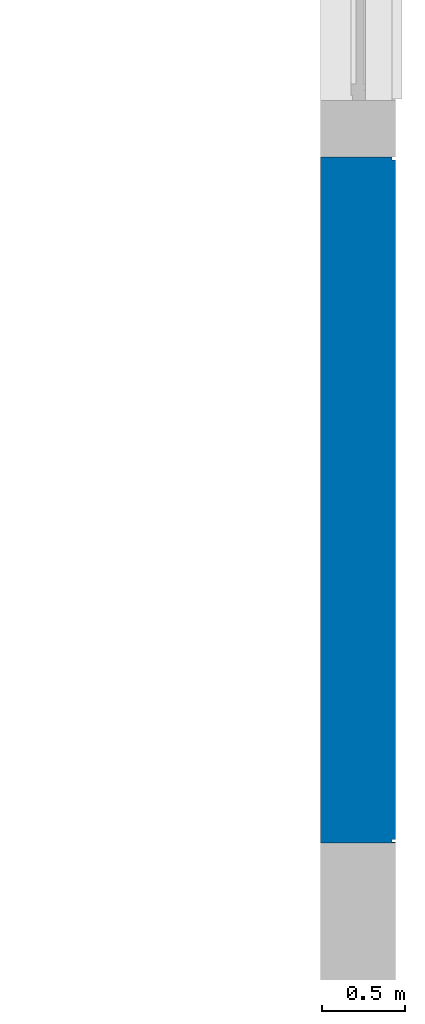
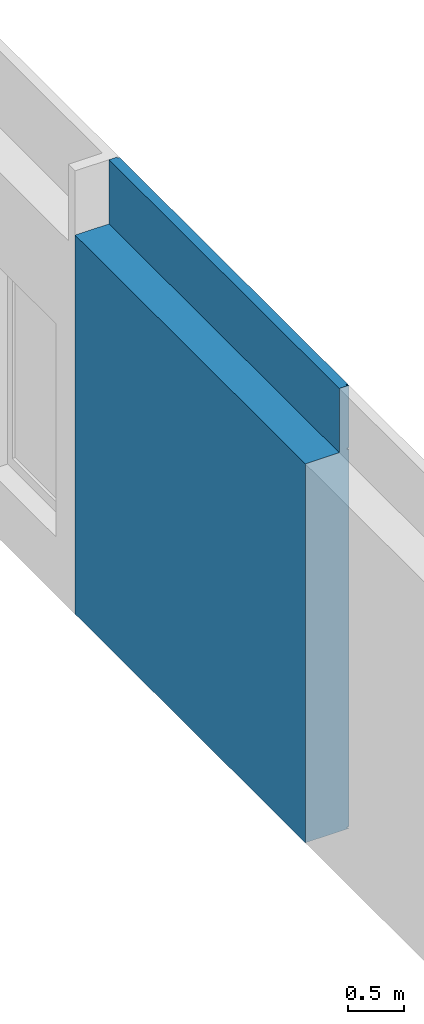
# One storey, part 20 of 33: 1 wall, 4 openings.
"""IFC2X3 building model written with IfcOpenShell, lengths in millimetres."""

from ifc_helpers import new_model, entity, si_unit, converted_unit, derived_unit, direction, frame, frame_2d, origin, origin_2d_with_axis, place, context, subcontext, project, spatial, polyline, rectangle, outline, extrude, clip, bounded_halfspace, faceted_brep, material, layer, layer_set, layer_usage, type_object, element, save


model = new_model("IFC2X3")

# Units and contexts
model_context = context("Model", 3, precision=0.01, world=origin(), true_north=direction((6.12303176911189e-17, 1.0)))
body_context = subcontext(model_context, "Body", "Model", "MODEL_VIEW")
ifc_project = project(units=[si_unit("LENGTHUNIT", "METRE", prefix="MILLI"), si_unit("AREAUNIT", "SQUARE_METRE"), si_unit("VOLUMEUNIT", "CUBIC_METRE"), converted_unit("PLANEANGLEUNIT", "DEGREE", entity("IfcRatioMeasure", 0.0174532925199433), si_unit("PLANEANGLEUNIT", "RADIAN"), dimensions=[0, 0, 0, 0, 0, 0, 0]), si_unit("MASSUNIT", "GRAM", prefix="KILO"), derived_unit("MASSDENSITYUNIT", [(si_unit("MASSUNIT", "GRAM", prefix="KILO"), 1), (si_unit("LENGTHUNIT", "METRE"), -3)]), si_unit("TIMEUNIT", "SECOND"), si_unit("FREQUENCYUNIT", "HERTZ"), si_unit("THERMODYNAMICTEMPERATUREUNIT", "DEGREE_CELSIUS"), derived_unit("THERMALTRANSMITTANCEUNIT", [(si_unit("MASSUNIT", "GRAM", prefix="KILO"), 1), (si_unit("THERMODYNAMICTEMPERATUREUNIT", "KELVIN"), -1), (si_unit("TIMEUNIT", "SECOND"), -3)]), derived_unit("VOLUMETRICFLOWRATEUNIT", [(si_unit("LENGTHUNIT", "METRE"), 3), (si_unit("TIMEUNIT", "SECOND"), -1)]), si_unit("ELECTRICCURRENTUNIT", "AMPERE"), si_unit("ELECTRICVOLTAGEUNIT", "VOLT"), si_unit("POWERUNIT", "WATT"), si_unit("FORCEUNIT", "NEWTON", prefix="KILO"), si_unit("ILLUMINANCEUNIT", "LUX"), si_unit("LUMINOUSFLUXUNIT", "LUMEN"), si_unit("LUMINOUSINTENSITYUNIT", "CANDELA"), derived_unit("USERDEFINED", [(si_unit("MASSUNIT", "GRAM", prefix="KILO"), -1), (si_unit("LENGTHUNIT", "METRE"), -2), (si_unit("TIMEUNIT", "SECOND"), 3), (si_unit("LUMINOUSFLUXUNIT", "LUMEN"), 1)]), derived_unit("LINEARVELOCITYUNIT", [(si_unit("LENGTHUNIT", "METRE"), 1), (si_unit("TIMEUNIT", "SECOND"), -1)]), si_unit("PRESSUREUNIT", "PASCAL"), derived_unit("USERDEFINED", [(si_unit("LENGTHUNIT", "METRE"), -2), (si_unit("MASSUNIT", "GRAM", prefix="KILO"), 1), (si_unit("TIMEUNIT", "SECOND"), -2)])], contexts=[model_context])

# Site, building, storey
site_placement = place(None, origin())
site = spatial("IfcSite", under=ifc_project, at=site_placement, Name="Default", CompositionType="ELEMENT")
building_placement = place(site_placement, origin())
building = spatial("IfcBuilding", under=site, at=building_placement, CompositionType="ELEMENT")
storey_placement = place(building_placement, frame((0.0, 0.0, 4000.0)))
storey = spatial("IfcBuildingStorey", under=building, at=storey_placement, Name="2. KORRUS", CompositionType="ELEMENT", Elevation=4000.0)

# Wall, openings
ifc_material_1 = material(Name="RECKLI 1 173 THUR by Polantis 2016-toon2")
ifc_layer_1 = layer(ifc_material_1, 100.0)
ifc_material_2 = material(Name="Soojusisolatsioon EPS")
ifc_layer_2 = layer(ifc_material_2, 200.0)
ifc_material_3 = material(Name="r/b")
ifc_layer_3 = layer(ifc_material_3, 150.0)
ifc_layer_set = layer_set([ifc_layer_1, ifc_layer_2, ifc_layer_3], Name="Basic Wall:VS-1_toon-c")
ifc_layer_usage = layer_usage(ifc_layer_set, "AXIS2", "NEGATIVE", 225.0)
wall_type = type_object("IfcWallType", Name="Basic Wall:VS-1_toon-c", PredefinedType="STANDARD", material=ifc_layer_set)
wall_placement = place(storey_placement, frame((39725.0, 12880.0, -135.0), z_axis=(0.0, 0.0, 1.0), x_axis=(0.0, -1.0, 0.0)))
wall = element("IfcWallStandardCase", 1, at=wall_placement, inside=storey, type_object=wall_type, material=ifc_layer_usage, Name="Basic Wall:VS-1_toon-c", ObjectType="Basic Wall:VS-1_toon-c", context=body_context, shape_type="Clipping", body=[
    clip(extrude(outline(polyline([(4236.66999997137, -225.0), (4236.66999997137, 225.0), (4232.66999997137, 225.0), (4232.66999997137, 205.0), (4216.66999997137, 205.0), (4216.66999997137, 225.0), (136.0, 225.0), (136.0, 205.0), (120.0, 205.0), (120.0, -225.0), (4236.66999997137, -225.0)])), origin(), (0.0, 0.0, 1.0), 4835.00000000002), bounded_halfspace(frame((0.0, -225.0, 4135.0), z_axis=(0.0, 0.0, 1.0), x_axis=(0.0, 1.0, 0.0)), False, frame((0.0, -225.0, 4135.0)), polyline([(0.0, 0.0), (4236.66999997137, 0.0), (4236.66999997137, 350.0), (0.0, 350.0), (0.0, 0.0)]))),
])
opening_1_placement = place(wall_placement, origin())
element("IfcOpeningElement", 2, at=opening_1_placement, cuts=wall, Name="Basic Wall:VS-1_toon-c", ObjectType="Recess", context=body_context, shape_type="SweptSolid", body=[
    extrude(rectangle(XDim=4265.0, YDim=15.9999999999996, at=frame_2d((0.0, 5.40900657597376e-13), x_axis=(1.0, 0.0))), frame((4224.66999997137, 205.0, -2132.5), z_axis=(0.0, 1.0, 0.0), x_axis=(0.0, 0.0, 1.0)), (0.0, 0.0, 1.0), 20.0000000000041),
    extrude(rectangle(XDim=4835.0, YDim=15.9999999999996, at=frame_2d((0.0, -5.40900657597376e-13), x_axis=(1.0, 0.0))), frame((4224.66999997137, 205.0, 2417.5), z_axis=(0.0, 1.0, 0.0), x_axis=(0.0, 0.0, 1.0)), (0.0, 0.0, 1.0), 20.0000000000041),
])
opening_2_placement = place(wall_placement, origin())
element("IfcOpeningElement", 3, at=opening_2_placement, cuts=wall, Name="Basic Wall:VS-1_toon-c", ObjectType="Recess", context=body_context, shape_type="SweptSolid", body=[
    extrude(rectangle(XDim=4265.0, YDim=16.0000000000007, at=origin_2d_with_axis()), frame((128.0, 205.0, -2132.50000000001), z_axis=(0.0, 1.0, 0.0), x_axis=(0.0, 0.0, 1.0)), (0.0, 0.0, 1.0), 20.0000000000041),
    extrude(rectangle(XDim=4835.0, YDim=16.0000000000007, at=frame_2d((8.18545231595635e-12, -1.08268949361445e-12), x_axis=(1.0, 0.0))), frame((128.0, 205.0, 2417.5), z_axis=(0.0, 1.0, 0.0), x_axis=(0.0, 0.0, 1.0)), (0.0, 0.0, 1.0), 20.0000000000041),
])
opening_3_placement = place(wall_placement, frame((13330.0, -40175.0, 4.0)))
element("IfcOpeningElement", 4, at=opening_3_placement, cuts=wall, Name="Basic Wall:VS-1_toon-c", ObjectType="Opening", context=body_context, shape_type="Brep", body=[
    faceted_brep([(-20.0, 11850.0, 16.0), (0.0, 11850.0, 16.0), (0.0, 11850.0, 0.0), (-20.0, 11850.0, 0.0), (-20.0, 4260.0, 16.0), (-20.0, 4260.0, 0.0), (0.0, 4260.0, 0.0), (0.0, 4260.0, 16.0)], [[[0, 1, 2, 3]], [[4, 5, 6, 7]], [[1, 0, 4, 7]], [[2, 1, 7, 6]], [[3, 2, 6, 5]], [[0, 3, 5, 4]]]),
    faceted_brep([(-28480.0, 20.0, 16.0), (-28480.0, 20.0, 0.0), (-28500.0, 0.0, 0.0), (-28500.0, 0.0, 16.0), (-23740.0, 20.0, 16.0), (-23740.0, 0.0, 16.0), (-23740.0, 0.0, 0.0), (-23740.0, 20.0, 0.0)], [[[0, 1, 2, 3]], [[4, 5, 6, 7]], [[1, 0, 4, 7]], [[2, 1, 7, 6]], [[3, 2, 6, 5]], [[0, 3, 5, 4]]]),
    faceted_brep([(-22380.0517807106, 10080.0, 16.0), (-22400.0517807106, 10100.0, 16.0), (-22400.0517807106, 10100.0, 0.0), (-22380.0517807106, 10080.0, 0.0), (-22380.0517807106, 15330.3475962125, 16.0), (-22380.0517807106, 15330.3475962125, 0.0), (-22400.0517807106, 15330.3475962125, 0.0), (-22400.0517807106, 15330.3475962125, 16.0)], [[[0, 1, 2, 3]], [[4, 5, 6, 7]], [[1, 0, 4, 7]], [[2, 1, 7, 6]], [[3, 2, 6, 5]], [[0, 3, 5, 4]]]),
    faceted_brep([(-28480.0, 20.0, 16.0), (-28500.0, 0.0, 16.0), (-28500.0, 0.0, 0.0), (-28480.0, 20.0, 0.0), (-28480.0, 4360.0, 16.0), (-28480.0, 4360.0, 0.0), (-28500.0, 4360.0, 0.0), (-28500.0, 4360.0, 16.0)], [[[0, 1, 2, 3]], [[4, 5, 6, 7]], [[1, 0, 4, 7]], [[2, 1, 7, 6]], [[3, 2, 6, 5]], [[0, 3, 5, 4]]]),
    faceted_brep([(-20.0, 40380.0, 16.0), (0.0, 40400.0, 16.0), (0.0, 40400.0, 0.0), (-20.0, 40380.0, 0.0), (-20.0, 35250.0, 16.0), (-20.0, 35250.0, 0.0), (0.0, 35250.0, 0.0), (0.0, 35250.0, 16.0)], [[[0, 1, 2, 3]], [[4, 5, 6, 7]], [[1, 0, 4, 7]], [[2, 1, 7, 6]], [[3, 2, 6, 5]], [[0, 3, 5, 4]]]),
    faceted_brep([(-22380.0517807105, 34420.1035702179, 16.0), (-22400.0517807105, 34420.1035702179, 16.0), (-22400.0517807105, 34420.1035702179, 0.0), (-22380.0517807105, 34420.1035702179, 0.0), (-22380.0517807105, 40380.0, 16.0), (-22380.0517807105, 40380.0, 0.0), (-22400.0517807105, 40400.0, 0.0), (-22400.0517807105, 40400.0, 16.0)], [[[0, 1, 2, 3]], [[4, 5, 6, 7]], [[1, 0, 4, 7]], [[2, 1, 7, 6]], [[3, 2, 6, 5]], [[0, 3, 5, 4]]]),
    faceted_brep([(-22380.0517807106, 29113.2161487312, 16.0), (-22400.0517807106, 29113.2161487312, 16.0), (-22400.0517807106, 29113.2161487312, 0.0), (-22380.0517807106, 29113.2161487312, 0.0), (-22380.0517807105, 34420.1035702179, 16.0), (-22380.0517807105, 34420.1035702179, 0.0), (-22400.0517807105, 34420.1035702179, 0.0), (-22400.0517807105, 34420.1035702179, 16.0)], [[[0, 1, 2, 3]], [[4, 5, 6, 7]], [[1, 0, 4, 7]], [[2, 1, 7, 6]], [[3, 2, 6, 5]], [[0, 3, 5, 4]]]),
    faceted_brep([(-28480.0, 10080.0, 16.0), (-28500.0, 10100.0, 16.0), (-28500.0, 10100.0, 0.0), (-28480.0, 10080.0, 0.0), (-22380.0517807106, 10080.0, 16.0), (-22380.0517807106, 10080.0, 0.0), (-22400.0517807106, 10100.0, 0.0), (-22400.0517807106, 10100.0, 16.0)], [[[0, 1, 2, 3]], [[4, 5, 6, 7]], [[1, 0, 4, 7]], [[2, 1, 7, 6]], [[3, 2, 6, 5]], [[0, 3, 5, 4]]]),
    faceted_brep([(-20.0, 4260.0, 16.0), (0.0, 4260.0, 16.0), (0.0, 4260.0, 0.0), (-20.0, 4260.0, 0.0), (-20.0, 0.0, 16.0), (-20.0, 0.0, 0.0), (0.0, 0.0, 0.0), (0.0, 0.0, 16.0)], [[[0, 1, 2, 3]], [[4, 5, 6, 7]], [[1, 0, 4, 7]], [[2, 1, 7, 6]], [[3, 2, 6, 5]], [[0, 3, 5, 4]]]),
    faceted_brep([(-4865.0, 40380.0, 16.0), (-4865.0, 40400.0, 16.0), (-4865.0, 40400.0, 0.0), (-4865.0, 40380.0, 0.0), (-20.0, 40380.0, 16.0), (-20.0, 40380.0, 0.0), (0.0, 40400.0, 0.0), (0.0, 40400.0, 16.0)], [[[0, 1, 2, 3]], [[4, 5, 6, 7]], [[1, 0, 4, 7]], [[2, 1, 7, 6]], [[3, 2, 6, 5]], [[0, 3, 5, 4]]]),
    faceted_brep([(-9093.33000000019, 40380.0, 16.0), (-9093.33000000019, 40400.0, 16.0), (-9093.33000000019, 40400.0, 0.0), (-9093.33000000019, 40380.0, 0.0), (-4865.0, 40380.0, 16.0), (-4865.0, 40380.0, 0.0), (-4865.0, 40400.0, 0.0), (-4865.0, 40400.0, 16.0)], [[[0, 1, 2, 3]], [[4, 5, 6, 7]], [[1, 0, 4, 7]], [[2, 1, 7, 6]], [[3, 2, 6, 5]], [[0, 3, 5, 4]]]),
    faceted_brep([(-13210.0, 40380.0, 16.0), (-13210.0, 40400.0, 16.0), (-13210.0, 40400.0, 0.0), (-13210.0, 40380.0, 0.0), (-9093.33000000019, 40380.0, 16.0), (-9093.33000000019, 40380.0, 0.0), (-9093.33000000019, 40400.0, 0.0), (-9093.33000000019, 40400.0, 16.0)], [[[0, 1, 2, 3]], [[4, 5, 6, 7]], [[1, 0, 4, 7]], [[2, 1, 7, 6]], [[3, 2, 6, 5]], [[0, 3, 5, 4]]]),
    faceted_brep([(-16240.0, 40380.0, 16.0), (-16240.0, 40400.0, 16.0), (-16240.0, 40400.0, 0.0), (-16240.0, 40380.0, 0.0), (-13210.0, 40380.0, 16.0), (-13210.0, 40380.0, 0.0), (-13210.0, 40400.0, 0.0), (-13210.0, 40400.0, 16.0)], [[[0, 1, 2, 3]], [[4, 5, 6, 7]], [[1, 0, 4, 7]], [[2, 1, 7, 6]], [[3, 2, 6, 5]], [[0, 3, 5, 4]]]),
    faceted_brep([(-22380.0517807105, 40380.0, 16.0), (-22400.0517807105, 40400.0, 16.0), (-22400.0517807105, 40400.0, 0.0), (-22380.0517807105, 40380.0, 0.0), (-16240.0, 40380.0, 16.0), (-16240.0, 40380.0, 0.0), (-16240.0, 40400.0, 0.0), (-16240.0, 40400.0, 16.0)], [[[0, 1, 2, 3]], [[4, 5, 6, 7]], [[1, 0, 4, 7]], [[2, 1, 7, 6]], [[3, 2, 6, 5]], [[0, 3, 5, 4]]]),
    faceted_brep([(-22380.0517807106, 22535.0, 16.0), (-22400.0517807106, 22535.0, 16.0), (-22400.0517807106, 22535.0, 0.0), (-22380.0517807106, 22535.0, 0.0), (-22380.0517807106, 29113.2161487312, 16.0), (-22380.0517807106, 29113.2161487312, 0.0), (-22400.0517807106, 29113.2161487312, 0.0), (-22400.0517807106, 29113.2161487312, 16.0)], [[[0, 1, 2, 3]], [[4, 5, 6, 7]], [[1, 0, 4, 7]], [[2, 1, 7, 6]], [[3, 2, 6, 5]], [[0, 3, 5, 4]]]),
    faceted_brep([(-22380.0517807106, 18703.3528910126, 16.0), (-22400.0517807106, 18703.3528910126, 16.0), (-22400.0517807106, 18703.3528910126, 0.0), (-22380.0517807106, 18703.3528910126, 0.0), (-22380.0517807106, 22535.0, 16.0), (-22380.0517807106, 22535.0, 0.0), (-22400.0517807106, 22535.0, 0.0), (-22400.0517807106, 22535.0, 16.0)], [[[0, 1, 2, 3]], [[4, 5, 6, 7]], [[1, 0, 4, 7]], [[2, 1, 7, 6]], [[3, 2, 6, 5]], [[0, 3, 5, 4]]]),
    faceted_brep([(-22380.0517807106, 15330.3475962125, 16.0), (-22400.0517807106, 15330.3475962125, 16.0), (-22400.0517807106, 15330.3475962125, 0.0), (-22380.0517807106, 15330.3475962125, 0.0), (-22380.0517807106, 18703.3528910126, 16.0), (-22380.0517807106, 18703.3528910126, 0.0), (-22400.0517807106, 18703.3528910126, 0.0), (-22400.0517807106, 18703.3528910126, 16.0)], [[[0, 1, 2, 3]], [[4, 5, 6, 7]], [[1, 0, 4, 7]], [[2, 1, 7, 6]], [[3, 2, 6, 5]], [[0, 3, 5, 4]]]),
    faceted_brep([(-28480.0, 4360.0, 16.0), (-28500.0, 4360.0, 16.0), (-28500.0, 4360.0, 0.0), (-28480.0, 4360.0, 0.0), (-28480.0, 10080.0, 16.0), (-28480.0, 10080.0, 0.0), (-28500.0, 10100.0, 0.0), (-28500.0, 10100.0, 16.0)], [[[0, 1, 2, 3]], [[4, 5, 6, 7]], [[1, 0, 4, 7]], [[2, 1, 7, 6]], [[3, 2, 6, 5]], [[0, 3, 5, 4]]]),
    faceted_brep([(-23740.0, 20.0, 16.0), (-23740.0, 20.0, 0.0), (-23740.0, 0.0, 0.0), (-23740.0, 0.0, 16.0), (-16890.0006972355, 20.0, 16.0), (-16890.0006972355, 0.0, 16.0), (-16890.0006972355, 0.0, 0.0), (-16890.0006972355, 20.0, 0.0)], [[[0, 1, 2, 3]], [[4, 5, 6, 7]], [[1, 0, 4, 7]], [[2, 1, 7, 6]], [[3, 2, 6, 5]], [[0, 3, 5, 4]]]),
    faceted_brep([(-16890.0006972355, 20.0, 16.0), (-16890.0006972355, 20.0, 0.0), (-16890.0006972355, 0.0, 0.0), (-16890.0006972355, 0.0, 16.0), (-13460.0, 20.0, 16.0), (-13460.0, 0.0, 16.0), (-13460.0, 0.0, 0.0), (-13460.0, 20.0, 0.0)], [[[0, 1, 2, 3]], [[4, 5, 6, 7]], [[1, 0, 4, 7]], [[2, 1, 7, 6]], [[3, 2, 6, 5]], [[0, 3, 5, 4]]]),
])
opening_4_placement = place(wall_placement, origin())
element("IfcOpeningElement", 5, at=opening_4_placement, cuts=wall, Name="Basic Wall:VS-1_toon-c", ObjectType="Recess", context=body_context, shape_type="SweptSolid", body=[
    extrude(rectangle(XDim=15.9999999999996, YDim=20.0, at=frame_2d((-3.37507799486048e-14, 5.40900657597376e-13), x_axis=(0.0, 1.0))), frame((13320.0, -35915.0, 4147.0), z_axis=(0.0, 1.0, 0.0), x_axis=(1.0, 0.0, 0.0)), (0.0, 0.0, 1.0), 7590.0),
    extrude(rectangle(XDim=15.9999999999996, YDim=4660.0, at=frame_2d((-2.27373675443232e-12, 5.40900657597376e-13), x_axis=(0.0, 1.0))), frame((-12740.0, -40175.0, 4147.0), z_axis=(0.0, 1.0, 0.0), x_axis=(1.0, 0.0, 0.0)), (0.0, 0.0, 1.0), 20.0000000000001),
    extrude(rectangle(XDim=15.9999999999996, YDim=19.9999999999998, at=frame_2d((5.40900657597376e-13, -2.16626716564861e-12), x_axis=(1.0, 0.0))), frame((-9060.05178073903, -30075.0, 4147.0), z_axis=(0.0, 1.0, 0.0), x_axis=(0.0, 0.0, -1.0)), (0.0, 0.0, 1.0), 5230.3475962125),
    extrude(rectangle(XDim=15.9999999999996, YDim=19.9999999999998, at=frame_2d((5.40900657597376e-13, -2.16626716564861e-12), x_axis=(1.0, 0.0))), frame((-15160.0, -40175.0, 4147.0), z_axis=(0.0, 1.0, 0.0), x_axis=(0.0, 0.0, -1.0)), (0.0, 0.0, 1.0), 4360.0),
    extrude(rectangle(XDim=15.9999999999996, YDim=20.0, at=frame_2d((-3.37507799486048e-14, -5.40900657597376e-13), x_axis=(0.0, 1.0))), frame((13320.0, -4925.0, 4147.0), z_axis=(0.0, 1.0, 0.0), x_axis=(1.0, 0.0, 0.0)), (0.0, 0.0, 1.0), 5050.0),
    extrude(rectangle(XDim=15.9999999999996, YDim=19.9999999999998, at=frame_2d((5.40900657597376e-13, -2.16626716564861e-12), x_axis=(1.0, 0.0))), frame((-9060.05178073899, -5754.89642978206, 4147.0), z_axis=(0.0, 1.0, 0.0), x_axis=(0.0, 0.0, -1.0)), (0.0, 0.0, 1.0), 5979.89642978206),
    extrude(rectangle(XDim=15.9999999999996, YDim=19.9999999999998, at=frame_2d((5.40900657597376e-13, -2.16626716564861e-12), x_axis=(1.0, 0.0))), frame((-9060.051780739, -11061.7838512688, 4147.0), z_axis=(0.0, 1.0, 0.0), x_axis=(0.0, 0.0, -1.0)), (0.0, 0.0, 1.0), 5306.88742148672),
    extrude(rectangle(XDim=15.9999999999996, YDim=6099.94821928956, at=frame_2d((0.0, 0.0), x_axis=(0.0, 1.0))), frame((-12020.0258903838, -30095.0, 4147.0), z_axis=(0.0, 1.0, 0.0), x_axis=(1.0, 0.0, 0.0)), (0.0, 0.0, 1.0), 19.9999999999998),
    extrude(rectangle(XDim=15.9999999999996, YDim=20.0, at=frame_2d((-3.37507799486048e-14, 5.40900657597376e-13), x_axis=(0.0, 1.0))), frame((13320.0, -40075.0, 4147.0), z_axis=(0.0, 1.0, 0.0), x_axis=(1.0, 0.0, 0.0)), (0.0, 0.0, 1.0), 4160.00000000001),
    extrude(rectangle(XDim=15.9999999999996, YDim=4865.0, at=frame_2d((0.0, 5.40900657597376e-13), x_axis=(0.0, 1.0))), frame((10897.4999999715, 205.0, 4147.0), z_axis=(0.0, 1.0, 0.0), x_axis=(1.0, 0.0, 0.0)), (0.0, 0.0, 1.0), 20.0000000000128),
    extrude(rectangle(XDim=15.9999999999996, YDim=4228.33000000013, at=frame_2d((0.0, 0.0), x_axis=(0.0, 1.0))), frame((6350.83499997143, 205.0, 4147.0), z_axis=(0.0, 1.0, 0.0), x_axis=(1.0, 0.0, 0.0)), (0.0, 0.0, 1.0), 20.0000000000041),
    extrude(rectangle(XDim=15.9999999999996, YDim=4236.66999997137, at=frame_2d((1.13686837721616e-12, 0.0), x_axis=(0.0, 1.0))), frame((2118.33499998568, 205.0, 4147.0), z_axis=(0.0, 1.0, 0.0), x_axis=(1.0, 0.0, 0.0)), (0.0, 0.0, 1.0), 19.9999999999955),
    extrude(rectangle(XDim=15.9999999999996, YDim=2910.00000002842, at=frame_2d((2.1600499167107e-12, 5.40900657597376e-13), x_axis=(0.0, 1.0))), frame((-1455.0, 205.0, 4147.0), z_axis=(0.0, 1.0, 0.0), x_axis=(1.0, 0.0, 0.0)), (0.0, 0.0, 1.0), 20.0000000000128),
    extrude(rectangle(XDim=15.9999999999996, YDim=6060.05178071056, at=frame_2d((0.0, 0.0), x_axis=(0.0, 1.0))), frame((-5940.02589038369, 205.0, 4147.0), z_axis=(0.0, 1.0, 0.0), x_axis=(1.0, 0.0, 0.0)), (0.0, 0.0, 1.0), 19.9999999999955),
    extrude(rectangle(XDim=15.9999999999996, YDim=19.9999999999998, at=frame_2d((5.40900657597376e-13, -2.16626716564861e-12), x_axis=(1.0, 0.0))), frame((-9060.05178073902, -21471.6471089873, 4147.0), z_axis=(0.0, 1.0, 0.0), x_axis=(0.0, 0.0, -1.0)), (0.0, 0.0, 1.0), 3831.64710898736),
    extrude(rectangle(XDim=15.9999999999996, YDim=19.9999999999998, at=frame_2d((5.40900657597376e-13, -2.16626716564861e-12), x_axis=(1.0, 0.0))), frame((-9060.05178073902, -24844.6524037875, 4147.0), z_axis=(0.0, 1.0, 0.0), x_axis=(0.0, 0.0, -1.0)), (0.0, 0.0, 1.0), 3373.00529480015),
    extrude(rectangle(XDim=15.9999999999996, YDim=19.9999999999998, at=frame_2d((5.40900657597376e-13, 2.16626716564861e-12), x_axis=(1.0, 0.0))), frame((-15160.0, -35815.0, 4147.0), z_axis=(0.0, 1.0, 0.0), x_axis=(0.0, 0.0, -1.0)), (0.0, 0.0, 1.0), 5739.99999999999),
    extrude(rectangle(XDim=15.9999999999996, YDim=6849.99930276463, at=frame_2d((1.13686837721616e-12, 5.40900657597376e-13), x_axis=(0.0, 1.0))), frame((-6985.00034864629, -40175.0, 4147.0), z_axis=(0.0, 1.0, 0.0), x_axis=(1.0, 0.0, 0.0)), (0.0, 0.0, 1.0), 20.0),
    extrude(rectangle(XDim=15.9999999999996, YDim=3430.00069726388, at=frame_2d((1.02318153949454e-12, 5.40900657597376e-13), x_axis=(0.0, 1.0))), frame((-1845.00034863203, -40175.0, 4147.0), z_axis=(0.0, 1.0, 0.0), x_axis=(1.0, 0.0, 0.0)), (0.0, 0.0, 1.0), 20.0000000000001),
    extrude(rectangle(XDim=15.9999999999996, YDim=19.9999999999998, at=frame_2d((5.40900657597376e-13, -2.16626716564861e-12), x_axis=(1.0, 0.0))), frame((-9060.05178073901, -17640.0, 4147.0), z_axis=(0.0, 1.0, 0.0), x_axis=(0.0, 0.0, -1.0)), (0.0, 0.0, 1.0), 6578.21614873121),
    extrude(rectangle(XDim=15.9999999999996, YDim=20.0, at=frame_2d((-3.37507799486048e-14, 5.40900657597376e-13), x_axis=(0.0, 1.0))), frame((13320.0, -28325.0, 4147.0), z_axis=(0.0, 1.0, 0.0), x_axis=(1.0, 0.0, 0.0)), (0.0, 0.0, 1.0), 4110.00000000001),
    extrude(rectangle(XDim=15.9999999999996, YDim=20.0, at=frame_2d((-3.37507799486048e-14, 5.40900657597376e-13), x_axis=(0.0, 1.0))), frame((13320.0, -24215.0, 4147.0), z_axis=(0.0, 1.0, 0.0), x_axis=(1.0, 0.0, 0.0)), (0.0, 0.0, 1.0), 4600.0),
    extrude(rectangle(XDim=15.9999999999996, YDim=20.0, at=frame_2d((3.37507799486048e-14, 5.40900657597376e-13), x_axis=(0.0, 1.0))), frame((13320.0, -19615.0, 4147.0), z_axis=(0.0, 1.0, 0.0), x_axis=(1.0, 0.0, 0.0)), (0.0, 0.0, 1.0), 4600.0),
    extrude(rectangle(XDim=15.9999999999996, YDim=20.0, at=frame_2d((3.37507799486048e-14, 5.40900657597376e-13), x_axis=(0.0, 1.0))), frame((13320.0, -15015.0, 4147.0), z_axis=(0.0, 1.0, 0.0), x_axis=(1.0, 0.0, 0.0)), (0.0, 0.0, 1.0), 5299.99999999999),
    extrude(rectangle(XDim=15.9999999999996, YDim=20.0, at=frame_2d((-3.37507799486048e-14, 5.40900657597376e-13), x_axis=(0.0, 1.0))), frame((13320.0, -9715.0, 4147.0), z_axis=(0.0, 1.0, 0.0), x_axis=(1.0, 0.0, 0.0)), (0.0, 0.0, 1.0), 4790.0),
    extrude(rectangle(XDim=15.9999999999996, YDim=4724.85920481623, at=frame_2d((6.82121026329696e-13, 5.40900657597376e-13), x_axis=(0.0, 1.0))), frame((2232.42960240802, -40175.0, 4147.0), z_axis=(0.0, 1.0, 0.0), x_axis=(1.0, 0.0, 0.0)), (0.0, 0.0, 1.0), 20.0000000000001),
    extrude(rectangle(XDim=15.9999999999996, YDim=8735.1407951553, at=frame_2d((0.0, 5.40900657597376e-13), x_axis=(0.0, 1.0))), frame((8962.42960239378, -40175.0, 4147.0), z_axis=(0.0, 1.0, 0.0), x_axis=(1.0, 0.0, 0.0)), (0.0, 0.0, 1.0), 20.0),
])

save(model, "model.ifc")
